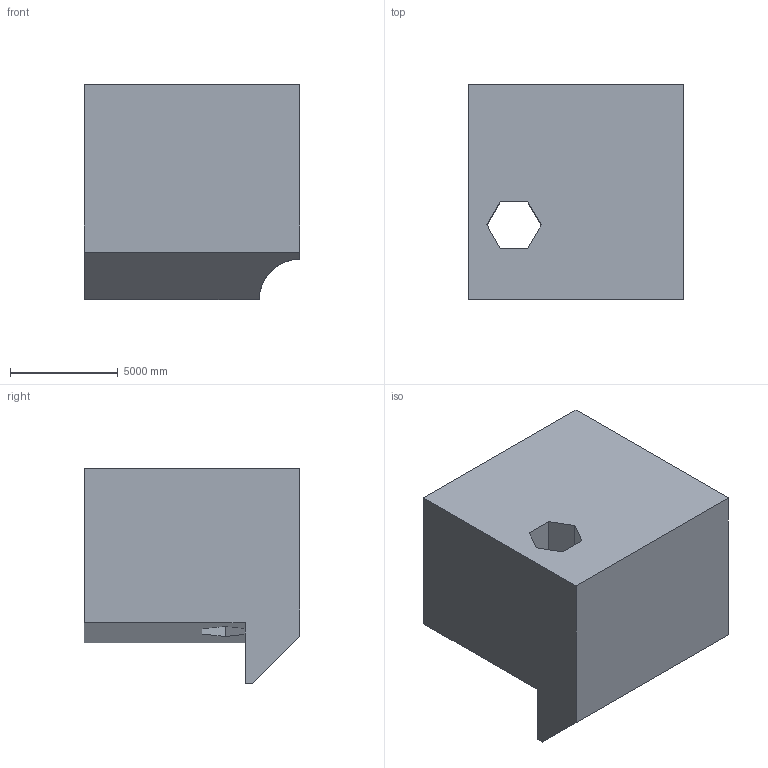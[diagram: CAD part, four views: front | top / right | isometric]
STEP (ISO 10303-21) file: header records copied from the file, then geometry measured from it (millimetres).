
FILE_DESCRIPTION (( 'STEP AP203' ), '1' );
FILE_NAME ('1429.STEP', '2022-08-18T14:25:22', ( 'user' ), ( '' ), 'SwSTEP 2.0', 'SolidWorks 2021', '' );
FILE_SCHEMA (( 'CONFIG_CONTROL_DESIGN' ));
Length unit declared in the file: centimetre
Products named in the file (1): 1429
Bounding box: 10000 x 10000 x 10000 mm (x, y, z)
Volume: 762432411453.7 mm3; surface area: 585474575.3 mm2
Topology: 1 solids, 1 shells, 21 faces, 60 edges, 40 vertices
Faces by surface type: plane 19, cylinder 2
Entity records: 758 total; most frequent: CARTESIAN_POINT 125, ORIENTED_EDGE 120, DIRECTION 106, EDGE_CURVE 60, VECTOR 56, LINE 56, VERTEX_POINT 40, AXIS2_PLACEMENT_3D 25
